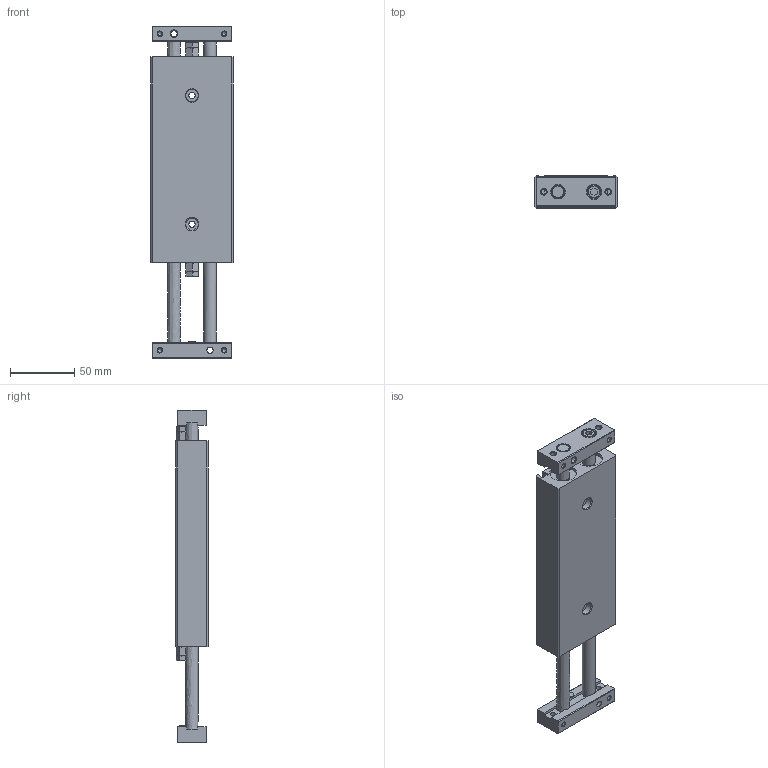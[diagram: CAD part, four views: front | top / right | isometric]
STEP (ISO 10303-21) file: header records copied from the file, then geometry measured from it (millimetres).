
FILE_DESCRIPTION((''),'2;1');
FILE_NAME('I:\3D電子目錄\氣缸\STX\STX\STX20\STX20x50.stp','2007-10-02T08:32:05',('Administrator'),(''),'Autodesk Inventor 11','Autodesk Inventor 11','');
FILE_SCHEMA(('AUTOMOTIVE_DESIGN { 1 0 10303 214 1 1 1 1 }'));
Length unit declared in the file: millimetre
Products named in the file (1): STX20
Bounding box: 64 x 25 x 258 mm (x, y, z)
Volume: 282732.6 mm3; surface area: 56409 mm2
Topology: 1 solids, 1 shells, 277 faces, 685 edges, 425 vertices
Faces by surface type: plane 133, cone 75, bspline 42, cylinder 23, torus 4
Full cylindrical faces by diameter (mm): 3.242 x4, 6 x2, 9.5 x2, 10 x6, 10.2 x2, 11 x1, 11.2 x1, 21 x2, 22.2 x2
Entity records: 7915 total; most frequent: CARTESIAN_POINT 2261, DIRECTION 1108, ORIENTED_EDGE 1106, EDGE_CURVE 553, AXIS2_PLACEMENT_3D 424, EDGE_LOOP 408, VERTEX_POINT 381, FACE_OUTER_BOUND 276
